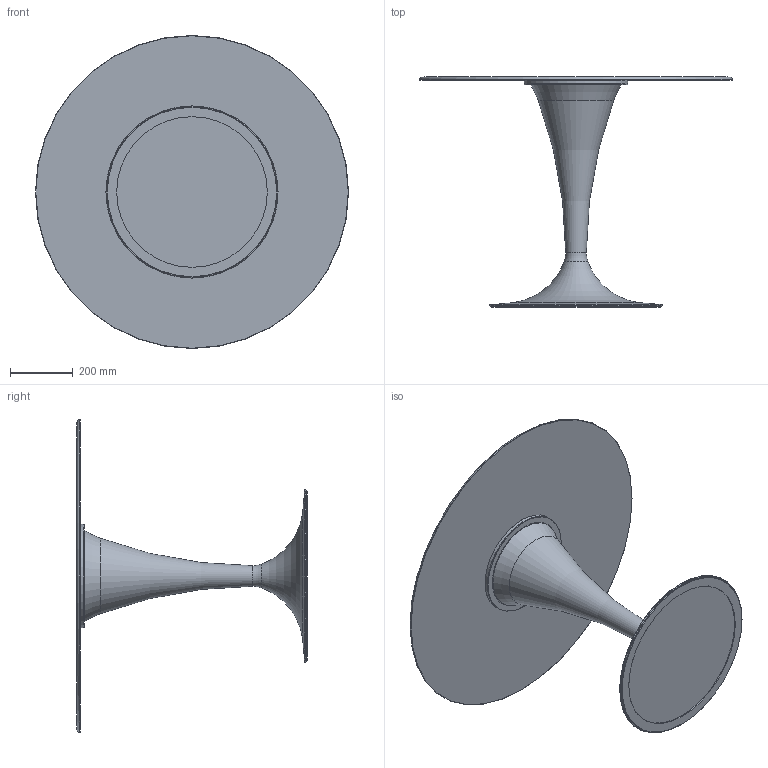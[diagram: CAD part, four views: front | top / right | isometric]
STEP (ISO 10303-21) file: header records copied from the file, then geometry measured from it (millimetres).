
FILE_DESCRIPTION((''),'2;1');
FILE_NAME('C:\AutodeskVault\AreaLavoro\Progetti\SoVeT Italia\1. Tavoli_Dining tables\Flûte\Web file\Flûte Web\P1648.stp','2012-05-02T11:27:56',('Gianluca'),('So.Ve.T. s.r.l.'),'Autodesk Inventor 2011','Autodesk Inventor 2011','IL PROGETTO E'' DI ESCLUSIVA PROPRIETA'' DELLA SO.VE.T. srl. E'' VIETATA OGNI RIPRODUZIONE TOTALE O PARZIALE E QUALSIASI UTILIZZO NON AUTORIZZATO.');
FILE_SCHEMA(('AUTOMOTIVE_DESIGN { 1 0 10303 214 1 1 1 1 }'));
Length unit declared in the file: millimetre
Products named in the file (1): P1648 Contorno semplificato
Bounding box: 1000 x 735 x 1000 mm (x, y, z)
Volume: 24920948.9 mm3; surface area: 2296302.9 mm2
Topology: 1 solids, 1 shells, 23 faces, 43 edges, 26 vertices
Faces by surface type: torus 8, plane 6, cylinder 5, cone 3, bspline 1
Full cylindrical faces by diameter (mm): 330 x1, 332 x1, 481 x1, 541 x1, 550 x1
Entity records: 539 total; most frequent: CARTESIAN_POINT 94, DIRECTION 90, AXIS2_PLACEMENT_3D 45, ORIENTED_EDGE 44, EDGE_LOOP 44, STYLED_ITEM 24, FACE_OUTER_BOUND 23, ADVANCED_FACE 23
